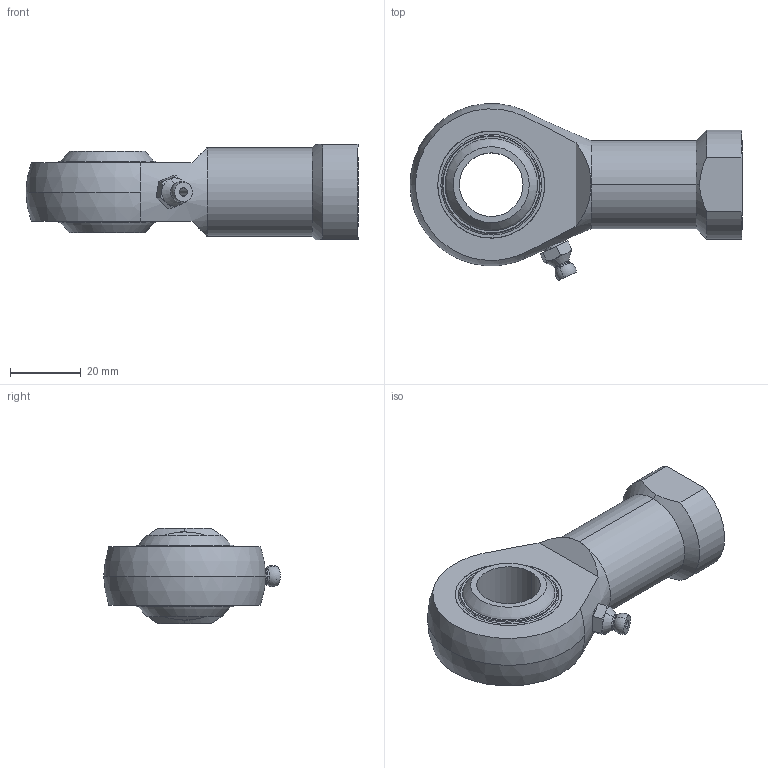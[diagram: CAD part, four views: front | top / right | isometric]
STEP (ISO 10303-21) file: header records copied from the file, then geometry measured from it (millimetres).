
FILE_DESCRIPTION (( 'STEP AP203' ), '1' );
FILE_NAME ('65760.W0218.step', '2014-02-11T16:39:52', ( 'User' ), ( '' ), 'SwSTEP 2.0', 'SolidWorks 2009', '' );
FILE_SCHEMA (( 'CONFIG_CONTROL_DESIGN' ));
Length unit declared in the file: millimetre
Products named in the file (5): Part3_M6; 65760.W0218; Part2_65760.W0218; Part1_65760.W0218; Part4_65760.W0218
Assembly tree (5 placements, depth 2):
  65760.W0218
    Part1_65760.W0218
    Part3_M6
    Part4_65760.W0218  x2
    Part2_65760.W0218
Bounding box: 94 x 50 x 27 mm (x, y, z)
Volume: 40156 mm3; surface area: 20792.1 mm2
Topology: 46 solids, 46 shells, 183 faces, 524 edges, 353 vertices
Faces by surface type: sphere 98, plane 27, torus 22, cylinder 20, cone 16
Entity records: 4815 total; most frequent: CARTESIAN_POINT 909, DIRECTION 814, ORIENTED_EDGE 558, AXIS2_PLACEMENT_3D 385, EDGE_CURVE 279, VERTEX_POINT 208, CIRCLE 207, EDGE_LOOP 189
